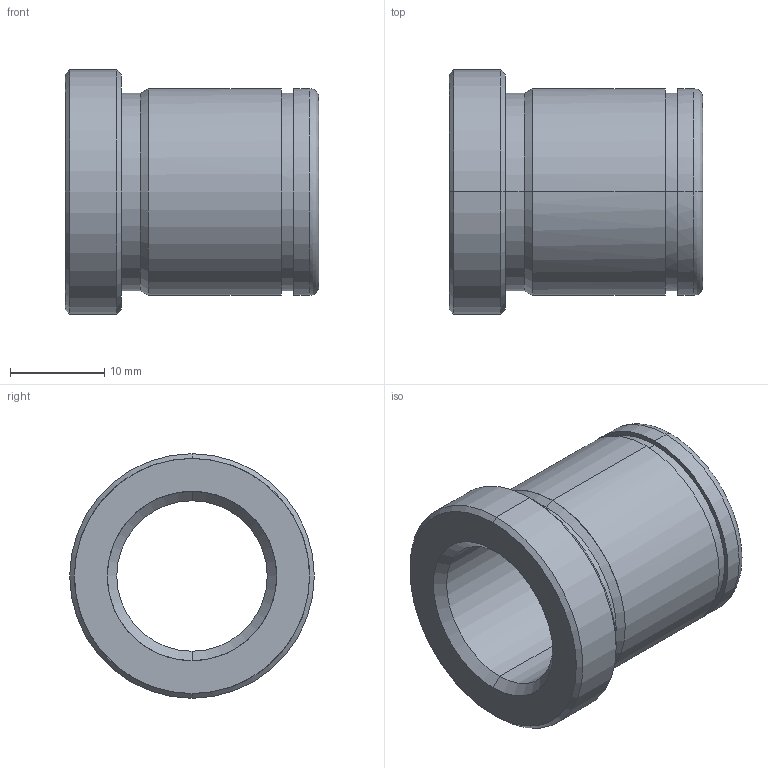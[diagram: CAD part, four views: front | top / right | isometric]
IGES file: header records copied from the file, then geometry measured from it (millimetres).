
Start section: START RECORD GO HERE.
Global section: file name: 553-16X27.igs; native system: DASSAULT SYSTEMES CATIA V5 R20 - www.3ds.com; preprocessor: CATIA Version 5 Release 20 ; author: Utente; organization: NB04-ASUS; date: 20210521.205849; units: millimetre
Bounding box: 27 x 26 x 26 mm (x, y, z)
Surface area: 3918.9 mm2 (no closed solid volume)
Topology: 0 solids, 0 shells, 29 faces, 184 edges, 184 vertices
Faces by surface type: revolution 24, plane 5
